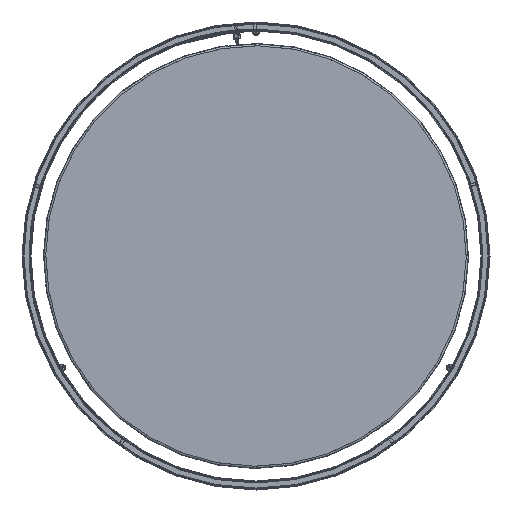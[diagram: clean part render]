
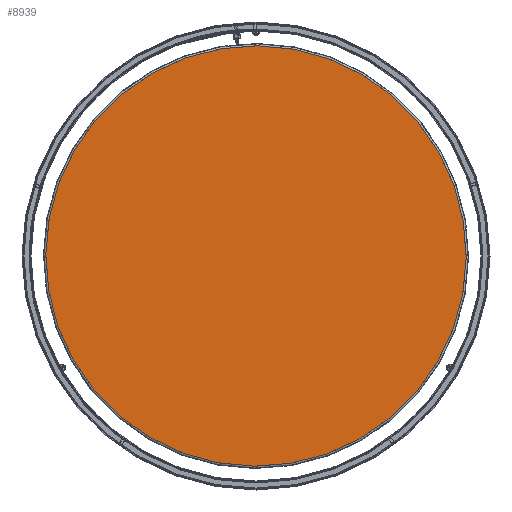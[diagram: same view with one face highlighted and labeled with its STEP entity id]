
A CAD part, front view. The second image highlights one B-rep face of the part: STEP entity #8939.
In plain terms, the highlighted planar face has unit normal (0, -1, 0).
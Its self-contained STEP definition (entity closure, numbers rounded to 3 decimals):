
#2081 = CARTESIAN_POINT ( 'NONE',  ( 0., -1., 0. ) ) ;
#2486 = DIRECTION ( 'NONE',  ( 0., 1., 0. ) ) ;
#3420 = VERTEX_POINT ( 'NONE', #32199 ) ;
#4327 = CIRCLE ( 'NONE', #9719, 539.1 ) ;
#6797 = DIRECTION ( 'NONE',  ( 0., 1., 0. ) ) ;
#7079 = FACE_OUTER_BOUND ( 'NONE', #28915, .T. ) ;
#8074 = ORIENTED_EDGE ( 'NONE', *, *, #11184, .F. ) ;
#8939 = ADVANCED_FACE ( 'NONE', ( #7079 ), #17409, .F. ) ;
#9719 = AXIS2_PLACEMENT_3D ( 'NONE', #2081, #6797, #12539 ) ;
#9920 = CARTESIAN_POINT ( 'NONE',  ( 0., -1., 0. ) ) ;
#10272 = CARTESIAN_POINT ( 'NONE',  ( 0., -1., 539.1 ) ) ;
#11184 = EDGE_CURVE ( 'NONE', #28351, #3420, #4327, .T. ) ;
#12539 = DIRECTION ( 'NONE',  ( 0., 0., 1. ) ) ;
#15193 = DIRECTION ( 'NONE',  ( 0., 0., 1. ) ) ;
#17409 = PLANE ( 'NONE',  #19355 ) ;
#19355 = AXIS2_PLACEMENT_3D ( 'NONE', #32966, #25681, #15193 ) ;
#20404 = DIRECTION ( 'NONE',  ( 0., 0., 1. ) ) ;
#22889 = AXIS2_PLACEMENT_3D ( 'NONE', #9920, #2486, #20404 ) ;
#25681 = DIRECTION ( 'NONE',  ( 0., 1., 0. ) ) ;
#28292 = CIRCLE ( 'NONE', #22889, 539.1 ) ;
#28351 = VERTEX_POINT ( 'NONE', #10272 ) ;
#28915 = EDGE_LOOP ( 'NONE', ( #8074, #31540 ) ) ;
#29939 = EDGE_CURVE ( 'NONE', #3420, #28351, #28292, .T. ) ;
#31540 = ORIENTED_EDGE ( 'NONE', *, *, #29939, .F. ) ;
#32199 = CARTESIAN_POINT ( 'NONE',  ( 0., -1., -539.1 ) ) ;
#32966 = CARTESIAN_POINT ( 'NONE',  ( 0., -1., 0. ) ) ;
